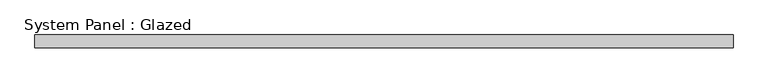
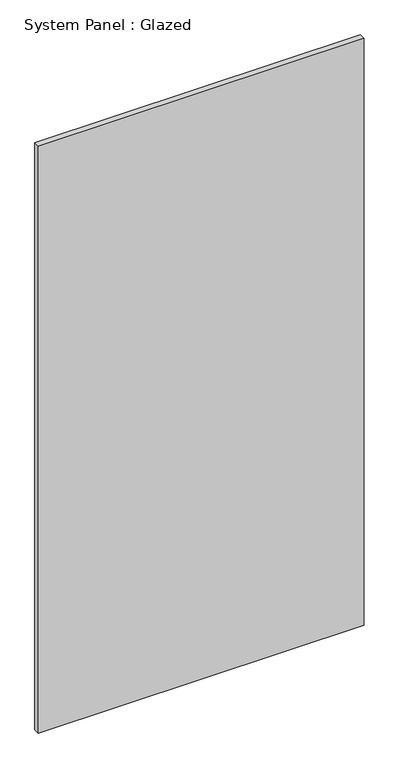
"""IFC4 building model written with IfcOpenShell, lengths in millimetres: plate geometry, System Panel : Glazed."""

from ifc_helpers import new_model, si_unit, origin, origin_with_axes, place, context, project, spatial, polyline, outline, extrude, source, transform, mapped, element, save


def system_panel_glazed_8e322f85(model_context):
    return source(origin(), model_context, "Body", "SweptSolid", [
        extrude(outline(polyline([(702.375, 19.05), (-702.375, 19.05), (-702.375, 44.45), (702.375, 44.45), (702.375, 19.05)])), origin_with_axes(), (0.0, 0.0, 1.0), 2673.0),
    ])


if __name__ == "__main__":
    model = new_model("IFC4")
    model_context = context("Model", 3, world=origin())
    ifc_project = project(units=[si_unit("LENGTHUNIT", "METRE", prefix="MILLI")], contexts=[model_context])
    site = spatial("IfcSite", under=ifc_project)
    building = spatial("IfcBuilding", under=site)
    placement = place(None, origin())
    system_panel_glazed_shape = system_panel_glazed_8e322f85(model_context)
    element("IfcPlate", 1, ObjectType="System Panel : Glazed", at=placement, inside=building, context=model_context, shape_type="MappedRepresentation", body=[
        mapped(system_panel_glazed_shape, transform((0.0, 0.0, 0.0), x_axis=(1.0, 0.0, 0.0), y_axis=(0.0, 1.0, 0.0), z_axis=(0.0, 0.0, 1.0))),
    ])
    save(model, "model.ifc")
